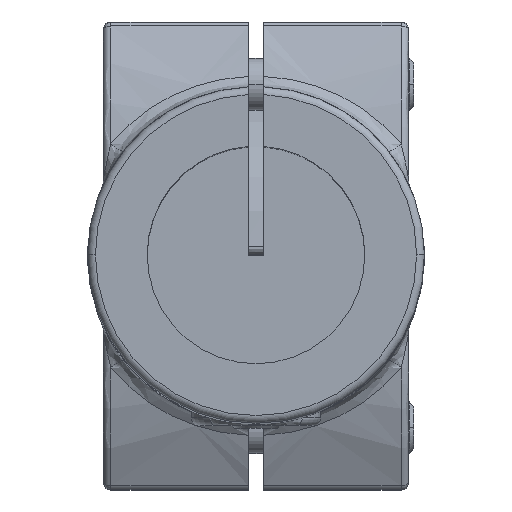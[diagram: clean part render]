
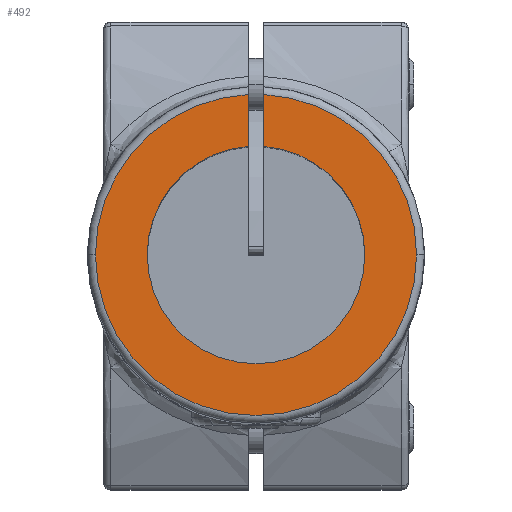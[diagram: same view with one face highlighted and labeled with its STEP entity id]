
A CAD part, top view. The second image highlights one B-rep face of the part: STEP entity #492.
In plain terms, the highlighted planar face has unit normal (0, 0, 1) as drawn and (0, 0, -1) by its records, which use the part's own axes.
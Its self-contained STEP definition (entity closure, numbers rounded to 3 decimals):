
#55 = EDGE_CURVE ( 'NONE', #976, #13013, #1922, .T. ) ;
#421 = DIRECTION ( 'NONE',  ( 0., 0., 1. ) ) ;
#492 = ADVANCED_FACE ( 'NONE', ( #15281 ), #14032, .F. ) ;
#560 = EDGE_CURVE ( 'NONE', #3821, #596, #11964, .T. ) ;
#596 = VERTEX_POINT ( 'NONE', #14596 ) ;
#650 = CARTESIAN_POINT ( 'NONE',  ( -1.5, 0., 0. ) ) ;
#976 = VERTEX_POINT ( 'NONE', #13483 ) ;
#1001 = ORIENTED_EDGE ( 'NONE', *, *, #5037, .T. ) ;
#1140 = VERTEX_POINT ( 'NONE', #7699 ) ;
#1547 = DIRECTION ( 'NONE',  ( 0., -1., 0. ) ) ;
#1922 = CIRCLE ( 'NONE', #7439, 21. ) ;
#2160 = VECTOR ( 'NONE', #1547, 1000. ) ;
#2396 = CARTESIAN_POINT ( 'NONE',  ( 0., 0., 0. ) ) ;
#2425 = DIRECTION ( 'NONE',  ( 0., 0., -1. ) ) ;
#3212 = DIRECTION ( 'NONE',  ( -1., 0., 0. ) ) ;
#3234 = CARTESIAN_POINT ( 'NONE',  ( 0., 0., 0. ) ) ;
#3700 = DIRECTION ( 'NONE',  ( 0., 0., 1. ) ) ;
#3821 = VERTEX_POINT ( 'NONE', #8663 ) ;
#3962 = CARTESIAN_POINT ( 'NONE',  ( 0., 0., 0. ) ) ;
#4051 = CARTESIAN_POINT ( 'NONE',  ( 1.5, 20.946, 0. ) ) ;
#4273 = EDGE_CURVE ( 'NONE', #14749, #13013, #8641, .T. ) ;
#4475 = DIRECTION ( 'NONE',  ( -1., 0., 0. ) ) ;
#4882 = DIRECTION ( 'NONE',  ( 1., 0., 0. ) ) ;
#4994 = EDGE_CURVE ( 'NONE', #1140, #5689, #5875, .T. ) ;
#5037 = EDGE_CURVE ( 'NONE', #14937, #1140, #10345, .T. ) ;
#5075 = AXIS2_PLACEMENT_3D ( 'NONE', #6118, #7531, #11158 ) ;
#5508 = ORIENTED_EDGE ( 'NONE', *, *, #4994, .T. ) ;
#5689 = VERTEX_POINT ( 'NONE', #10962 ) ;
#5875 = CIRCLE ( 'NONE', #14272, 31. ) ;
#5924 = CARTESIAN_POINT ( 'NONE',  ( 0., 0., 0. ) ) ;
#6118 = CARTESIAN_POINT ( 'NONE',  ( 0., 0., 0. ) ) ;
#6202 = CARTESIAN_POINT ( 'NONE',  ( 0., 0., 0. ) ) ;
#6319 = ORIENTED_EDGE ( 'NONE', *, *, #4273, .F. ) ;
#6741 = EDGE_LOOP ( 'NONE', ( #6319, #12246, #1001, #5508, #16051, #15657, #9858, #15972 ) ) ;
#7439 = AXIS2_PLACEMENT_3D ( 'NONE', #3234, #10993, #4475 ) ;
#7531 = DIRECTION ( 'NONE',  ( 0., 0., -1. ) ) ;
#7699 = CARTESIAN_POINT ( 'NONE',  ( -31., 0., 0. ) ) ;
#7802 = CIRCLE ( 'NONE', #10164, 31. ) ;
#8231 = EDGE_CURVE ( 'NONE', #3821, #5689, #15672, .T. ) ;
#8641 = LINE ( 'NONE', #12922, #2160 ) ;
#8663 = CARTESIAN_POINT ( 'NONE',  ( -1.5, 20.946, 0. ) ) ;
#8696 = CARTESIAN_POINT ( 'NONE',  ( 31., 0., 0. ) ) ;
#9399 = CARTESIAN_POINT ( 'NONE',  ( 0., 0., 0. ) ) ;
#9802 = DIRECTION ( 'NONE',  ( -1., 0., 0. ) ) ;
#9858 = ORIENTED_EDGE ( 'NONE', *, *, #15410, .T. ) ;
#10164 = AXIS2_PLACEMENT_3D ( 'NONE', #9399, #13981, #13135 ) ;
#10345 = CIRCLE ( 'NONE', #5075, 31. ) ;
#10478 = DIRECTION ( 'NONE',  ( 1., 0., 0. ) ) ;
#10962 = CARTESIAN_POINT ( 'NONE',  ( -1.5, 30.964, 0. ) ) ;
#10993 = DIRECTION ( 'NONE',  ( 0., 0., 1. ) ) ;
#11158 = DIRECTION ( 'NONE',  ( 1., 0., 0. ) ) ;
#11286 = AXIS2_PLACEMENT_3D ( 'NONE', #2396, #3700, #9802 ) ;
#11758 = CARTESIAN_POINT ( 'NONE',  ( 1.5, 30.964, 0. ) ) ;
#11964 = CIRCLE ( 'NONE', #15397, 21. ) ;
#12246 = ORIENTED_EDGE ( 'NONE', *, *, #16099, .T. ) ;
#12452 = AXIS2_PLACEMENT_3D ( 'NONE', #3962, #421, #10478 ) ;
#12869 = CIRCLE ( 'NONE', #11286, 21. ) ;
#12922 = CARTESIAN_POINT ( 'NONE',  ( 1.5, 0., 0. ) ) ;
#13013 = VERTEX_POINT ( 'NONE', #4051 ) ;
#13135 = DIRECTION ( 'NONE',  ( 1., 0., 0. ) ) ;
#13483 = CARTESIAN_POINT ( 'NONE',  ( 21., 0., 0. ) ) ;
#13981 = DIRECTION ( 'NONE',  ( 0., 0., -1. ) ) ;
#14032 = PLANE ( 'NONE',  #12452 ) ;
#14272 = AXIS2_PLACEMENT_3D ( 'NONE', #6202, #2425, #4882 ) ;
#14462 = VECTOR ( 'NONE', #15921, 1000. ) ;
#14596 = CARTESIAN_POINT ( 'NONE',  ( -21., 0., 0. ) ) ;
#14684 = DIRECTION ( 'NONE',  ( 0., 0., 1. ) ) ;
#14749 = VERTEX_POINT ( 'NONE', #11758 ) ;
#14937 = VERTEX_POINT ( 'NONE', #8696 ) ;
#15281 = FACE_OUTER_BOUND ( 'NONE', #6741, .T. ) ;
#15397 = AXIS2_PLACEMENT_3D ( 'NONE', #5924, #14684, #3212 ) ;
#15410 = EDGE_CURVE ( 'NONE', #596, #976, #12869, .T. ) ;
#15657 = ORIENTED_EDGE ( 'NONE', *, *, #560, .T. ) ;
#15672 = LINE ( 'NONE', #650, #14462 ) ;
#15921 = DIRECTION ( 'NONE',  ( 0., 1., 0. ) ) ;
#15972 = ORIENTED_EDGE ( 'NONE', *, *, #55, .T. ) ;
#16051 = ORIENTED_EDGE ( 'NONE', *, *, #8231, .F. ) ;
#16099 = EDGE_CURVE ( 'NONE', #14749, #14937, #7802, .T. ) ;
